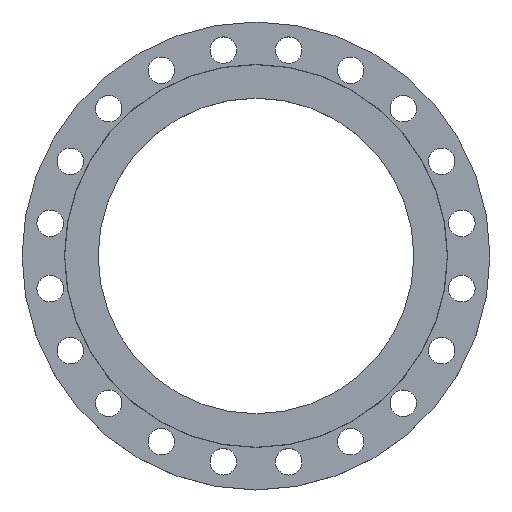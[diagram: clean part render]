
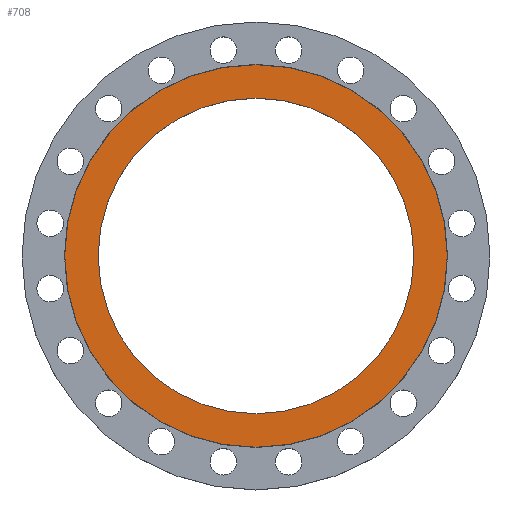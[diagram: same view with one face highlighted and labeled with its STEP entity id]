
A CAD part, top view. The second image highlights one B-rep face of the part: STEP entity #708.
In plain terms, the highlighted planar face has unit normal (0, 0, 1).
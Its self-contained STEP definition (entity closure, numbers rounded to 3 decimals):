
#71 = FACE_OUTER_BOUND ( 'NONE', #414, .T. ) ;
#105 = CARTESIAN_POINT ( 'NONE',  ( -231., 0., 0. ) ) ;
#168 = CARTESIAN_POINT ( 'NONE',  ( 280., 0., 0. ) ) ;
#254 = DIRECTION ( 'NONE',  ( 1., 0., 0. ) ) ;
#279 = DIRECTION ( 'NONE',  ( 0., 0., -1. ) ) ;
#313 = VERTEX_POINT ( 'NONE', #168 ) ;
#414 = EDGE_LOOP ( 'NONE', ( #526, #524 ) ) ;
#450 = VERTEX_POINT ( 'NONE', #105 ) ;
#524 = ORIENTED_EDGE ( 'NONE', *, *, #1672, .F. ) ;
#526 = ORIENTED_EDGE ( 'NONE', *, *, #1031, .F. ) ;
#527 = ORIENTED_EDGE ( 'NONE', *, *, #1591, .F. ) ;
#529 = ORIENTED_EDGE ( 'NONE', *, *, #1086, .F. ) ;
#537 = DIRECTION ( 'NONE',  ( -1., 0., 0. ) ) ;
#708 = ADVANCED_FACE ( 'NONE', ( #1615, #71 ), #904, .T. ) ;
#746 = VERTEX_POINT ( 'NONE', #777 ) ;
#771 = DIRECTION ( 'NONE',  ( 1., 0., 0. ) ) ;
#777 = CARTESIAN_POINT ( 'NONE',  ( 231., 0., 0. ) ) ;
#785 = CIRCLE ( 'NONE', #1056, 280. ) ;
#791 = DIRECTION ( 'NONE',  ( 1., 0., 0. ) ) ;
#890 = VERTEX_POINT ( 'NONE', #1569 ) ;
#904 = PLANE ( 'NONE',  #1075 ) ;
#929 = EDGE_LOOP ( 'NONE', ( #529, #527 ) ) ;
#1012 = AXIS2_PLACEMENT_3D ( 'NONE', #1696, #279, #1064 ) ;
#1031 = EDGE_CURVE ( 'NONE', #890, #313, #1727, .T. ) ;
#1056 = AXIS2_PLACEMENT_3D ( 'NONE', #1419, #1791, #537 ) ;
#1064 = DIRECTION ( 'NONE',  ( -1., 0., 0. ) ) ;
#1074 = AXIS2_PLACEMENT_3D ( 'NONE', #1539, #1876, #791 ) ;
#1075 = AXIS2_PLACEMENT_3D ( 'NONE', #1519, #1860, #771 ) ;
#1086 = EDGE_CURVE ( 'NONE', #746, #450, #1767, .T. ) ;
#1202 = CARTESIAN_POINT ( 'NONE',  ( 0., 0., 0. ) ) ;
#1419 = CARTESIAN_POINT ( 'NONE',  ( 0., 0., 0. ) ) ;
#1519 = CARTESIAN_POINT ( 'NONE',  ( 0., 0., 0. ) ) ;
#1539 = CARTESIAN_POINT ( 'NONE',  ( 0., 0., 0. ) ) ;
#1569 = CARTESIAN_POINT ( 'NONE',  ( -280., 0., 0. ) ) ;
#1591 = EDGE_CURVE ( 'NONE', #450, #746, #1769, .T. ) ;
#1615 = FACE_BOUND ( 'NONE', #929, .T. ) ;
#1672 = EDGE_CURVE ( 'NONE', #313, #890, #785, .T. ) ;
#1688 = DIRECTION ( 'NONE',  ( 0., 0., 1. ) ) ;
#1696 = CARTESIAN_POINT ( 'NONE',  ( 0., 0., 0. ) ) ;
#1727 = CIRCLE ( 'NONE', #1012, 280. ) ;
#1767 = CIRCLE ( 'NONE', #1074, 231. ) ;
#1769 = CIRCLE ( 'NONE', #1889, 231. ) ;
#1791 = DIRECTION ( 'NONE',  ( 0., 0., -1. ) ) ;
#1860 = DIRECTION ( 'NONE',  ( 0., 0., 1. ) ) ;
#1876 = DIRECTION ( 'NONE',  ( 0., 0., 1. ) ) ;
#1889 = AXIS2_PLACEMENT_3D ( 'NONE', #1202, #1688, #254 ) ;
